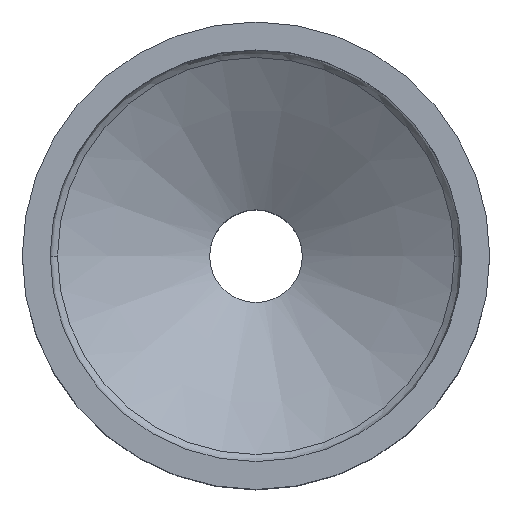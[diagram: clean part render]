
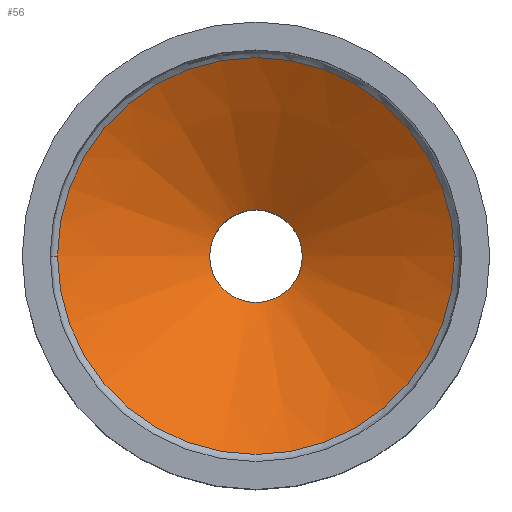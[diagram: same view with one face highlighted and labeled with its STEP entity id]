
A CAD part, top view. The second image highlights one B-rep face of the part: STEP entity #56.
In plain terms, the highlighted conical face has half-angle 60 degrees and reference radius 3.15 mm.
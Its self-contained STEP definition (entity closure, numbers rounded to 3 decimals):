
#29 = CIRCLE ( 'NONE', #130, 13.5 ) ;
#30 = CIRCLE ( 'NONE', #131, 13.5 ) ;
#32 = CIRCLE ( 'NONE', #133, 3.15 ) ;
#41 = CONICAL_SURFACE ( 'NONE', #512, 3.15, 1.047 ) ;
#56 = ADVANCED_FACE ( 'NONE', ( #520, #529 ), #41, .F. ) ;
#75 = EDGE_CURVE ( 'NONE', #423, #423, #32, .T. ) ;
#77 = EDGE_CURVE ( 'NONE', #267, #268, #30, .T. ) ;
#78 = EDGE_CURVE ( 'NONE', #268, #267, #29, .T. ) ;
#96 = ORIENTED_EDGE ( 'NONE', *, *, #75, .T. ) ;
#130 = AXIS2_PLACEMENT_3D ( 'NONE', #305, #306, #307 ) ;
#131 = AXIS2_PLACEMENT_3D ( 'NONE', #302, #303, #304 ) ;
#133 = AXIS2_PLACEMENT_3D ( 'NONE', #296, #297, #298 ) ;
#161 = EDGE_LOOP ( 'NONE', ( #562, #558 ) ) ;
#162 = EDGE_LOOP ( 'NONE', ( #96 ) ) ;
#237 = CARTESIAN_POINT ( 'NONE',  ( 0., 0., -16.342 ) ) ;
#238 = DIRECTION ( 'NONE',  ( 0., 0., 1. ) ) ;
#239 = DIRECTION ( 'NONE',  ( 1., 0., 0. ) ) ;
#267 = VERTEX_POINT ( 'NONE', #399 ) ;
#268 = VERTEX_POINT ( 'NONE', #400 ) ;
#296 = CARTESIAN_POINT ( 'NONE',  ( 0., 0., -16.342 ) ) ;
#297 = DIRECTION ( 'NONE',  ( 0., 0., -1. ) ) ;
#298 = DIRECTION ( 'NONE',  ( 1., 0., 0. ) ) ;
#302 = CARTESIAN_POINT ( 'NONE',  ( 0., 0., -10.366 ) ) ;
#303 = DIRECTION ( 'NONE',  ( 0., 0., 1. ) ) ;
#304 = DIRECTION ( 'NONE',  ( 0., -1., 0. ) ) ;
#305 = CARTESIAN_POINT ( 'NONE',  ( 0., 0., -10.366 ) ) ;
#306 = DIRECTION ( 'NONE',  ( 0., 0., 1. ) ) ;
#307 = DIRECTION ( 'NONE',  ( 0., -1., 0. ) ) ;
#399 = CARTESIAN_POINT ( 'NONE',  ( -13.5, 0., -10.366 ) ) ;
#400 = CARTESIAN_POINT ( 'NONE',  ( 13.5, 0., -10.366 ) ) ;
#423 = VERTEX_POINT ( 'NONE', #424 ) ;
#424 = CARTESIAN_POINT ( 'NONE',  ( 3.15, 0., -16.342 ) ) ;
#512 = AXIS2_PLACEMENT_3D ( 'NONE', #237, #238, #239 ) ;
#520 = FACE_OUTER_BOUND ( 'NONE', #161, .T. ) ;
#529 = FACE_BOUND ( 'NONE', #162, .T. ) ;
#558 = ORIENTED_EDGE ( 'NONE', *, *, #77, .T. ) ;
#562 = ORIENTED_EDGE ( 'NONE', *, *, #78, .T. ) ;
